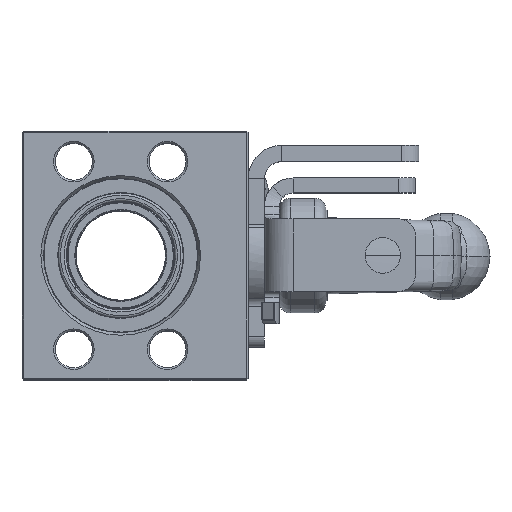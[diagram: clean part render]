
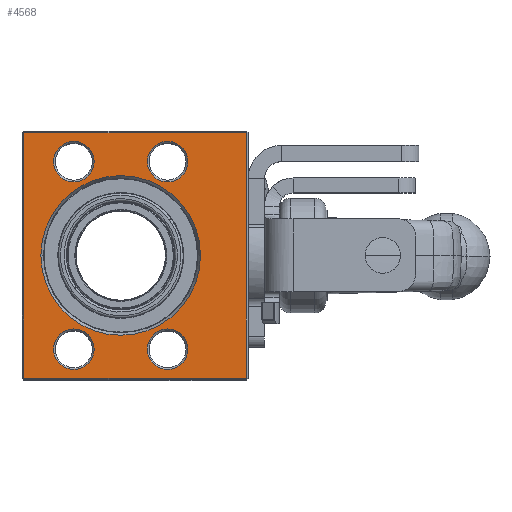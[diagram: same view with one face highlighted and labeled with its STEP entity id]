
A CAD part, top view. The second image highlights one B-rep face of the part: STEP entity #4568.
In plain terms, the highlighted planar face has unit normal (0, 0, 1).
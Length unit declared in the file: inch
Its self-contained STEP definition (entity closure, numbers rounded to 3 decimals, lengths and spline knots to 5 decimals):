
#8 = DIRECTION ( 'NONE',  ( -1., 0., 0. ) ) ;
#651 = CARTESIAN_POINT ( 'NONE',  ( 0.81806, 1.31419, 3.1926 ) ) ;
#1089 = ORIENTED_EDGE ( 'NONE', *, *, #35919, .T. ) ;
#1960 = CARTESIAN_POINT ( 'NONE',  ( 1.11006, 2.34519, 3.1926 ) ) ;
#2425 = VECTOR ( 'NONE', #34730, 39.37008 ) ;
#2449 = VECTOR ( 'NONE', #32376, 39.37008 ) ;
#2759 = ORIENTED_EDGE ( 'NONE', *, *, #35283, .T. ) ;
#3042 = EDGE_LOOP ( 'NONE', ( #38963, #30572 ) ) ;
#3062 = CARTESIAN_POINT ( 'NONE',  ( -0.26694, 2.66169, 3.1926 ) ) ;
#3389 = EDGE_CURVE ( 'NONE', #40775, #6100, #28698, .T. ) ;
#4409 = AXIS2_PLACEMENT_3D ( 'NONE', #30475, #43223, #11600 ) ;
#4568 = ADVANCED_FACE ( 'NONE', ( #52585, #34866, #44299, #53452, #13267, #38995 ), #35440, .F. ) ;
#5355 = CIRCLE ( 'NONE', #4409, 0.223 ) ;
#5676 = DIRECTION ( 'NONE',  ( -1., 0., 0. ) ) ;
#6100 = VERTEX_POINT ( 'NONE', #42944 ) ;
#6492 = VERTEX_POINT ( 'NONE', #16597 ) ;
#7291 = EDGE_CURVE ( 'NONE', #40180, #58198, #40020, .T. ) ;
#7379 = DIRECTION ( 'NONE',  ( -1., 0., 0. ) ) ;
#7431 = AXIS2_PLACEMENT_3D ( 'NONE', #55285, #44963, #8 ) ;
#7625 = AXIS2_PLACEMENT_3D ( 'NONE', #23358, #41404, #18948 ) ;
#7685 = EDGE_CURVE ( 'NONE', #19948, #22964, #17585, .T. ) ;
#8423 = EDGE_CURVE ( 'NONE', #6492, #33622, #5355, .T. ) ;
#8488 = CARTESIAN_POINT ( 'NONE',  ( 1.55606, 0.28319, 3.1926 ) ) ;
#8553 = AXIS2_PLACEMENT_3D ( 'NONE', #40297, #32603, #53891 ) ;
#8752 = CIRCLE ( 'NONE', #29507, 0.87737 ) ;
#10072 = DIRECTION ( 'NONE',  ( 0., 0., -1. ) ) ;
#10649 = CARTESIAN_POINT ( 'NONE',  ( 0.30306, 2.34519, 3.1926 ) ) ;
#10695 = ORIENTED_EDGE ( 'NONE', *, *, #37924, .T. ) ;
#10757 = CARTESIAN_POINT ( 'NONE',  ( 2.19806, -0.05331, 3.1926 ) ) ;
#11085 = LINE ( 'NONE', #3062, #46346 ) ;
#11600 = DIRECTION ( 'NONE',  ( -1., 0., 0. ) ) ;
#11950 = DIRECTION ( 'NONE',  ( -1., 0., 0. ) ) ;
#12313 = ORIENTED_EDGE ( 'NONE', *, *, #14895, .T. ) ;
#12349 = CIRCLE ( 'NONE', #7625, 0.223 ) ;
#13267 = FACE_OUTER_BOUND ( 'NONE', #48116, .T. ) ;
#14357 = LINE ( 'NONE', #32666, #2449 ) ;
#14378 = CIRCLE ( 'NONE', #20035, 0.223 ) ;
#14578 = AXIS2_PLACEMENT_3D ( 'NONE', #651, #18414, #37050 ) ;
#14895 = EDGE_CURVE ( 'NONE', #58198, #47401, #55384, .T. ) ;
#15956 = ORIENTED_EDGE ( 'NONE', *, *, #7291, .T. ) ;
#16597 = CARTESIAN_POINT ( 'NONE',  ( 1.11006, 0.28319, 3.1926 ) ) ;
#17209 = EDGE_LOOP ( 'NONE', ( #10695, #1089 ) ) ;
#17585 = CIRCLE ( 'NONE', #49703, 0.223 ) ;
#18414 = DIRECTION ( 'NONE',  ( 0., 0., -1. ) ) ;
#18948 = DIRECTION ( 'NONE',  ( -1., 0., 0. ) ) ;
#19586 = EDGE_LOOP ( 'NONE', ( #28805, #46455 ) ) ;
#19948 = VERTEX_POINT ( 'NONE', #34435 ) ;
#20035 = AXIS2_PLACEMENT_3D ( 'NONE', #29403, #55419, #38266 ) ;
#20723 = DIRECTION ( 'NONE',  ( -1., 0., 0. ) ) ;
#22964 = VERTEX_POINT ( 'NONE', #53546 ) ;
#23358 = CARTESIAN_POINT ( 'NONE',  ( 0.30306, 0.28319, 3.1926 ) ) ;
#23902 = CIRCLE ( 'NONE', #35832, 0.223 ) ;
#24036 = VERTEX_POINT ( 'NONE', #51612 ) ;
#24075 = CARTESIAN_POINT ( 'NONE',  ( -0.24694, -0.03331, 3.1926 ) ) ;
#24562 = CIRCLE ( 'NONE', #8553, 0.223 ) ;
#24717 = EDGE_CURVE ( 'NONE', #6100, #40775, #8752, .T. ) ;
#25548 = CIRCLE ( 'NONE', #55892, 0.223 ) ;
#26562 = DIRECTION ( 'NONE',  ( 0., 0., -1. ) ) ;
#26707 = CARTESIAN_POINT ( 'NONE',  ( -0.24694, 2.66169, 3.1926 ) ) ;
#27528 = DIRECTION ( 'NONE',  ( 0., 0., -1. ) ) ;
#28116 = DIRECTION ( 'NONE',  ( -1., 0., 0. ) ) ;
#28698 = CIRCLE ( 'NONE', #14578, 0.87737 ) ;
#28805 = ORIENTED_EDGE ( 'NONE', *, *, #40388, .T. ) ;
#29209 = VECTOR ( 'NONE', #37664, 39.37008 ) ;
#29403 = CARTESIAN_POINT ( 'NONE',  ( 1.33306, 2.34519, 3.1926 ) ) ;
#29507 = AXIS2_PLACEMENT_3D ( 'NONE', #47614, #43193, #20723 ) ;
#30475 = CARTESIAN_POINT ( 'NONE',  ( 1.33306, 0.28319, 3.1926 ) ) ;
#30572 = ORIENTED_EDGE ( 'NONE', *, *, #40165, .T. ) ;
#31080 = CARTESIAN_POINT ( 'NONE',  ( 0.30306, 2.34519, 3.1926 ) ) ;
#32376 = DIRECTION ( 'NONE',  ( 0., -1., 0. ) ) ;
#32526 = DIRECTION ( 'NONE',  ( -1., 0., 0. ) ) ;
#32603 = DIRECTION ( 'NONE',  ( 0., 0., -1. ) ) ;
#32666 = CARTESIAN_POINT ( 'NONE',  ( -0.24694, -0.05331, 3.1926 ) ) ;
#33622 = VERTEX_POINT ( 'NONE', #8488 ) ;
#34435 = CARTESIAN_POINT ( 'NONE',  ( 0.52606, 2.34519, 3.1926 ) ) ;
#34730 = DIRECTION ( 'NONE',  ( 1., 0., 0. ) ) ;
#34761 = VERTEX_POINT ( 'NONE', #35707 ) ;
#34866 = FACE_BOUND ( 'NONE', #3042, .T. ) ;
#35283 = EDGE_CURVE ( 'NONE', #45535, #40180, #14357, .T. ) ;
#35332 = CARTESIAN_POINT ( 'NONE',  ( 0.30306, 0.28319, 3.1926 ) ) ;
#35440 = PLANE ( 'NONE',  #37279 ) ;
#35707 = CARTESIAN_POINT ( 'NONE',  ( 0.52606, 0.28319, 3.1926 ) ) ;
#35769 = EDGE_CURVE ( 'NONE', #22964, #19948, #25548, .T. ) ;
#35832 = AXIS2_PLACEMENT_3D ( 'NONE', #35332, #53345, #5676 ) ;
#35919 = EDGE_CURVE ( 'NONE', #37305, #34761, #12349, .T. ) ;
#36353 = ORIENTED_EDGE ( 'NONE', *, *, #7685, .T. ) ;
#36519 = ORIENTED_EDGE ( 'NONE', *, *, #24717, .T. ) ;
#37050 = DIRECTION ( 'NONE',  ( -1., 0., 0. ) ) ;
#37230 = ORIENTED_EDGE ( 'NONE', *, *, #35769, .T. ) ;
#37279 = AXIS2_PLACEMENT_3D ( 'NONE', #57307, #26562, #7379 ) ;
#37305 = VERTEX_POINT ( 'NONE', #40707 ) ;
#37664 = DIRECTION ( 'NONE',  ( 0., 1., 0. ) ) ;
#37883 = ORIENTED_EDGE ( 'NONE', *, *, #3389, .T. ) ;
#37924 = EDGE_CURVE ( 'NONE', #34761, #37305, #23902, .T. ) ;
#38266 = DIRECTION ( 'NONE',  ( -1., 0., 0. ) ) ;
#38963 = ORIENTED_EDGE ( 'NONE', *, *, #53447, .T. ) ;
#38995 = FACE_BOUND ( 'NONE', #41464, .T. ) ;
#40020 = LINE ( 'NONE', #43880, #2425 ) ;
#40165 = EDGE_CURVE ( 'NONE', #55856, #24036, #14378, .T. ) ;
#40180 = VERTEX_POINT ( 'NONE', #24075 ) ;
#40297 = CARTESIAN_POINT ( 'NONE',  ( 1.33306, 0.28319, 3.1926 ) ) ;
#40388 = EDGE_CURVE ( 'NONE', #33622, #6492, #24562, .T. ) ;
#40707 = CARTESIAN_POINT ( 'NONE',  ( 0.08006, 0.28319, 3.1926 ) ) ;
#40775 = VERTEX_POINT ( 'NONE', #47938 ) ;
#41404 = DIRECTION ( 'NONE',  ( 0., 0., -1. ) ) ;
#41464 = EDGE_LOOP ( 'NONE', ( #37883, #36519 ) ) ;
#42944 = CARTESIAN_POINT ( 'NONE',  ( -0.05931, 1.31419, 3.1926 ) ) ;
#43193 = DIRECTION ( 'NONE',  ( 0., 0., -1. ) ) ;
#43223 = DIRECTION ( 'NONE',  ( 0., 0., -1. ) ) ;
#43528 = CARTESIAN_POINT ( 'NONE',  ( 2.19806, 2.66169, 3.1926 ) ) ;
#43880 = CARTESIAN_POINT ( 'NONE',  ( -0.26694, -0.03331, 3.1926 ) ) ;
#44299 = FACE_BOUND ( 'NONE', #47359, .T. ) ;
#44963 = DIRECTION ( 'NONE',  ( 0., 0., -1. ) ) ;
#45535 = VERTEX_POINT ( 'NONE', #26707 ) ;
#45584 = ORIENTED_EDGE ( 'NONE', *, *, #57851, .T. ) ;
#46199 = CARTESIAN_POINT ( 'NONE',  ( 2.19806, -0.03331, 3.1926 ) ) ;
#46346 = VECTOR ( 'NONE', #11950, 39.37008 ) ;
#46455 = ORIENTED_EDGE ( 'NONE', *, *, #8423, .T. ) ;
#47056 = CIRCLE ( 'NONE', #7431, 0.223 ) ;
#47359 = EDGE_LOOP ( 'NONE', ( #36353, #37230 ) ) ;
#47401 = VERTEX_POINT ( 'NONE', #43528 ) ;
#47614 = CARTESIAN_POINT ( 'NONE',  ( 0.81806, 1.31419, 3.1926 ) ) ;
#47938 = CARTESIAN_POINT ( 'NONE',  ( 1.69542, 1.31419, 3.1926 ) ) ;
#48116 = EDGE_LOOP ( 'NONE', ( #2759, #15956, #12313, #45584 ) ) ;
#49703 = AXIS2_PLACEMENT_3D ( 'NONE', #31080, #27528, #28116 ) ;
#51612 = CARTESIAN_POINT ( 'NONE',  ( 1.55606, 2.34519, 3.1926 ) ) ;
#52585 = FACE_BOUND ( 'NONE', #17209, .T. ) ;
#53345 = DIRECTION ( 'NONE',  ( 0., 0., -1. ) ) ;
#53447 = EDGE_CURVE ( 'NONE', #24036, #55856, #47056, .T. ) ;
#53452 = FACE_BOUND ( 'NONE', #19586, .T. ) ;
#53546 = CARTESIAN_POINT ( 'NONE',  ( 0.08006, 2.34519, 3.1926 ) ) ;
#53891 = DIRECTION ( 'NONE',  ( -1., 0., 0. ) ) ;
#55285 = CARTESIAN_POINT ( 'NONE',  ( 1.33306, 2.34519, 3.1926 ) ) ;
#55384 = LINE ( 'NONE', #10757, #29209 ) ;
#55419 = DIRECTION ( 'NONE',  ( 0., 0., -1. ) ) ;
#55856 = VERTEX_POINT ( 'NONE', #1960 ) ;
#55892 = AXIS2_PLACEMENT_3D ( 'NONE', #10649, #10072, #32526 ) ;
#57307 = CARTESIAN_POINT ( 'NONE',  ( -0.26694, -0.05331, 3.1926 ) ) ;
#57851 = EDGE_CURVE ( 'NONE', #47401, #45535, #11085, .T. ) ;
#58198 = VERTEX_POINT ( 'NONE', #46199 ) ;
